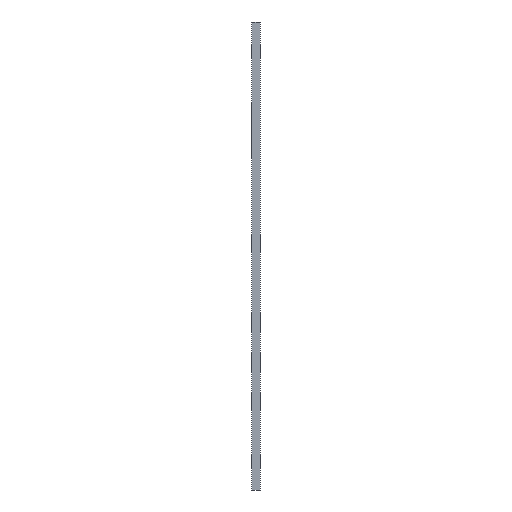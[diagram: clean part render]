
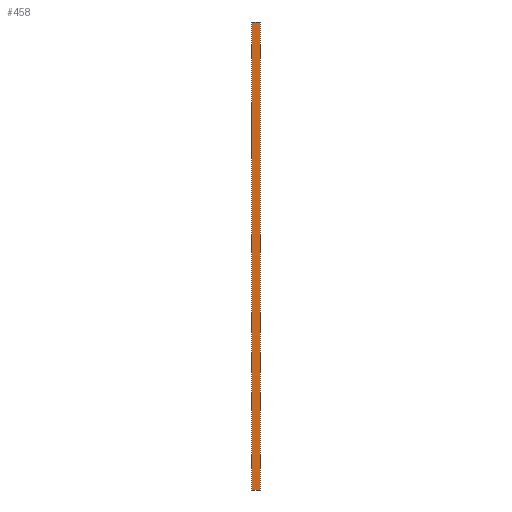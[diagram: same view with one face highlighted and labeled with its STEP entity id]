
A CAD part, front view. The second image highlights one B-rep face of the part: STEP entity #458.
In plain terms, the highlighted planar face has unit normal (0, -1, 0).
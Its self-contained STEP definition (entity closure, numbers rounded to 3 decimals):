
#21 = EDGE_CURVE('',#22,#24,#26,.T.);
#22 = VERTEX_POINT('',#23);
#23 = CARTESIAN_POINT('',(-42.4,-52.,191.));
#24 = VERTEX_POINT('',#25);
#25 = CARTESIAN_POINT('',(-42.4,-52.,321.));
#26 = LINE('',#27,#28);
#27 = CARTESIAN_POINT('',(-42.4,-52.,191.));
#28 = VECTOR('',#29,1.);
#29 = DIRECTION('',(0.,0.,1.));
#458 = ADVANCED_FACE('',(#459),#484,.F.);
#459 = FACE_BOUND('',#460,.F.);
#460 = EDGE_LOOP('',(#461,#469,#470,#478));
#461 = ORIENTED_EDGE('',*,*,#462,.F.);
#462 = EDGE_CURVE('',#22,#463,#465,.T.);
#463 = VERTEX_POINT('',#464);
#464 = CARTESIAN_POINT('',(-40.,-52.,191.));
#465 = LINE('',#466,#467);
#466 = CARTESIAN_POINT('',(-42.4,-52.,191.));
#467 = VECTOR('',#468,1.);
#468 = DIRECTION('',(1.,0.,-0.));
#469 = ORIENTED_EDGE('',*,*,#21,.T.);
#470 = ORIENTED_EDGE('',*,*,#471,.T.);
#471 = EDGE_CURVE('',#24,#472,#474,.T.);
#472 = VERTEX_POINT('',#473);
#473 = CARTESIAN_POINT('',(-40.,-52.,321.));
#474 = LINE('',#475,#476);
#475 = CARTESIAN_POINT('',(-42.4,-52.,321.));
#476 = VECTOR('',#477,1.);
#477 = DIRECTION('',(1.,0.,-0.));
#478 = ORIENTED_EDGE('',*,*,#479,.F.);
#479 = EDGE_CURVE('',#463,#472,#480,.T.);
#480 = LINE('',#481,#482);
#481 = CARTESIAN_POINT('',(-40.,-52.,191.));
#482 = VECTOR('',#483,1.);
#483 = DIRECTION('',(0.,0.,1.));
#484 = PLANE('',#485);
#485 = AXIS2_PLACEMENT_3D('',#486,#487,#488);
#486 = CARTESIAN_POINT('',(-42.4,-52.,191.));
#487 = DIRECTION('',(-0.,1.,0.));
#488 = DIRECTION('',(0.,0.,1.));
